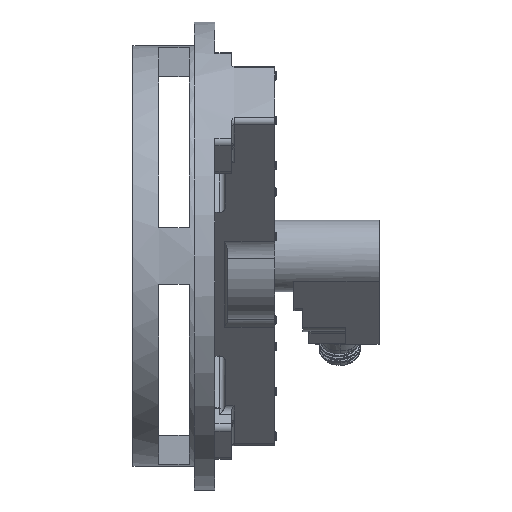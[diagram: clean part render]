
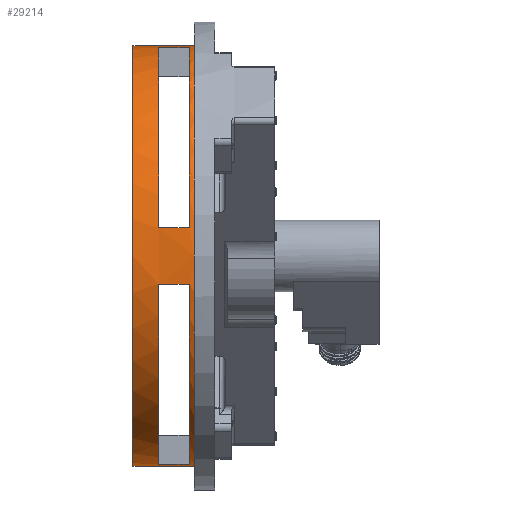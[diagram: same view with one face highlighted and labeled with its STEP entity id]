
A CAD part, left-side view. The second image highlights one B-rep face of the part: STEP entity #29214.
In plain terms, the highlighted cylindrical face has radius 114.173 mm (diameter 228.346 mm), a partial arc.
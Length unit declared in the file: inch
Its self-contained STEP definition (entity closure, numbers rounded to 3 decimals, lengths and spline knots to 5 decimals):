
#106 = CARTESIAN_POINT ( 'NONE',  ( -4.45478, 0.55, 0.6 ) ) ;
#828 = VERTEX_POINT ( 'NONE', #26707 ) ;
#869 = CARTESIAN_POINT ( 'NONE',  ( -4.45478, 1.2, 0.6 ) ) ;
#1244 = AXIS2_PLACEMENT_3D ( 'NONE', #27742, #18904, #27542 ) ;
#2260 = DIRECTION ( 'NONE',  ( 0., 1., 0. ) ) ;
#2295 = EDGE_CURVE ( 'NONE', #41793, #5886, #24773, .T. ) ;
#2335 = EDGE_CURVE ( 'NONE', #12716, #41793, #48828, .T. ) ;
#2461 = VERTEX_POINT ( 'NONE', #15449 ) ;
#2578 = EDGE_LOOP ( 'NONE', ( #12603, #45835, #14127, #45204 ) ) ;
#2658 = DIRECTION ( 'NONE',  ( 0., -1., 0. ) ) ;
#2911 = CIRCLE ( 'NONE', #37182, 4.495 ) ;
#2968 = VECTOR ( 'NONE', #2260, 39.37008 ) ;
#3605 = VECTOR ( 'NONE', #46795, 39.37008 ) ;
#3682 = DIRECTION ( 'NONE',  ( 0., 1., 0. ) ) ;
#5886 = VERTEX_POINT ( 'NONE', #106 ) ;
#6299 = EDGE_CURVE ( 'NONE', #828, #27022, #43797, .T. ) ;
#7137 = EDGE_CURVE ( 'NONE', #35178, #26812, #47825, .T. ) ;
#7289 = CARTESIAN_POINT ( 'NONE',  ( -0.6, 1.2, -4.45478 ) ) ;
#7793 = CARTESIAN_POINT ( 'NONE',  ( -4.45478, 0.4375, 0.6 ) ) ;
#9482 = VERTEX_POINT ( 'NONE', #35157 ) ;
#10057 = ORIENTED_EDGE ( 'NONE', *, *, #16496, .T. ) ;
#10648 = CARTESIAN_POINT ( 'NONE',  ( -0.6, 0.4375, -4.45478 ) ) ;
#10720 = AXIS2_PLACEMENT_3D ( 'NONE', #47709, #3682, #34426 ) ;
#11187 = CARTESIAN_POINT ( 'NONE',  ( 0., 0.4375, 0. ) ) ;
#12581 = LINE ( 'NONE', #7793, #3605 ) ;
#12603 = ORIENTED_EDGE ( 'NONE', *, *, #45439, .F. ) ;
#12716 = VERTEX_POINT ( 'NONE', #52568 ) ;
#13306 = EDGE_CURVE ( 'NONE', #5886, #43640, #12581, .T. ) ;
#14127 = ORIENTED_EDGE ( 'NONE', *, *, #26405, .T. ) ;
#14575 = CARTESIAN_POINT ( 'NONE',  ( 0., 0.4375, 0. ) ) ;
#14807 = LINE ( 'NONE', #48617, #33358 ) ;
#15009 = CARTESIAN_POINT ( 'NONE',  ( 0., 1.75, 0. ) ) ;
#15272 = CIRCLE ( 'NONE', #29771, 4.495 ) ;
#15421 = EDGE_CURVE ( 'NONE', #26812, #36880, #16488, .T. ) ;
#15449 = CARTESIAN_POINT ( 'NONE',  ( 0., 1.75, 4.495 ) ) ;
#15940 = ORIENTED_EDGE ( 'NONE', *, *, #47900, .T. ) ;
#16488 = LINE ( 'NONE', #24577, #47396 ) ;
#16496 = EDGE_CURVE ( 'NONE', #23132, #35178, #22579, .T. ) ;
#16874 = CARTESIAN_POINT ( 'NONE',  ( -0.6, 0.55, 4.45478 ) ) ;
#17464 = FACE_BOUND ( 'NONE', #51415, .T. ) ;
#18904 = DIRECTION ( 'NONE',  ( 0., -1., 0. ) ) ;
#19089 = CARTESIAN_POINT ( 'NONE',  ( -0.6, 0.4375, 4.45478 ) ) ;
#19368 = DIRECTION ( 'NONE',  ( 0., 0., 1. ) ) ;
#19440 = DIRECTION ( 'NONE',  ( 0., 1., 0. ) ) ;
#19478 = CARTESIAN_POINT ( 'NONE',  ( 0., 1.2, 0. ) ) ;
#19975 = ORIENTED_EDGE ( 'NONE', *, *, #52664, .T. ) ;
#20193 = DIRECTION ( 'NONE',  ( 0., 0., 1. ) ) ;
#22579 = LINE ( 'NONE', #10648, #25345 ) ;
#23132 = VERTEX_POINT ( 'NONE', #41169 ) ;
#23782 = ORIENTED_EDGE ( 'NONE', *, *, #7137, .T. ) ;
#24577 = CARTESIAN_POINT ( 'NONE',  ( -4.45478, 0.4375, -0.6 ) ) ;
#24773 = CIRCLE ( 'NONE', #1244, 4.495 ) ;
#24904 = CIRCLE ( 'NONE', #30020, 4.495 ) ;
#25345 = VECTOR ( 'NONE', #32698, 39.37008 ) ;
#25632 = EDGE_LOOP ( 'NONE', ( #15940, #10057, #23782, #43180 ) ) ;
#25728 = FACE_OUTER_BOUND ( 'NONE', #2578, .T. ) ;
#26405 = EDGE_CURVE ( 'NONE', #27022, #2461, #40126, .T. ) ;
#26707 = CARTESIAN_POINT ( 'NONE',  ( 0., 0.4375, -4.495 ) ) ;
#26812 = VERTEX_POINT ( 'NONE', #48932 ) ;
#27022 = VERTEX_POINT ( 'NONE', #29649 ) ;
#27542 = DIRECTION ( 'NONE',  ( 0., 0., 1. ) ) ;
#27742 = CARTESIAN_POINT ( 'NONE',  ( 0., 0.55, 0. ) ) ;
#27868 = DIRECTION ( 'NONE',  ( 0., 0., 1. ) ) ;
#29214 = ADVANCED_FACE ( 'NONE', ( #25728, #36046, #17464 ), #29847, .T. ) ;
#29649 = CARTESIAN_POINT ( 'NONE',  ( 0., 0.4375, 4.495 ) ) ;
#29771 = AXIS2_PLACEMENT_3D ( 'NONE', #56496, #56114, #47622 ) ;
#29847 = CYLINDRICAL_SURFACE ( 'NONE', #36856, 4.495 ) ;
#30020 = AXIS2_PLACEMENT_3D ( 'NONE', #19478, #45784, #40969 ) ;
#32698 = DIRECTION ( 'NONE',  ( 0., 1., 0. ) ) ;
#33358 = VECTOR ( 'NONE', #52512, 39.37008 ) ;
#34426 = DIRECTION ( 'NONE',  ( 0., 0., 1. ) ) ;
#35157 = CARTESIAN_POINT ( 'NONE',  ( 0., 1.75, -4.495 ) ) ;
#35178 = VERTEX_POINT ( 'NONE', #7289 ) ;
#36046 = FACE_BOUND ( 'NONE', #25632, .T. ) ;
#36856 = AXIS2_PLACEMENT_3D ( 'NONE', #11187, #19440, #20193 ) ;
#36880 = VERTEX_POINT ( 'NONE', #45144 ) ;
#36903 = DIRECTION ( 'NONE',  ( 0., 1., 0. ) ) ;
#37182 = AXIS2_PLACEMENT_3D ( 'NONE', #15009, #36903, #27868 ) ;
#37756 = ORIENTED_EDGE ( 'NONE', *, *, #13306, .T. ) ;
#40126 = LINE ( 'NONE', #41818, #2968 ) ;
#40969 = DIRECTION ( 'NONE',  ( 0., 0., 1. ) ) ;
#41169 = CARTESIAN_POINT ( 'NONE',  ( -0.6, 0.55, -4.45478 ) ) ;
#41185 = DIRECTION ( 'NONE',  ( 0., -1., 0. ) ) ;
#41496 = EDGE_CURVE ( 'NONE', #9482, #2461, #2911, .T. ) ;
#41793 = VERTEX_POINT ( 'NONE', #16874 ) ;
#41818 = CARTESIAN_POINT ( 'NONE',  ( 0., 0.4375, 4.495 ) ) ;
#42616 = VECTOR ( 'NONE', #41185, 39.37008 ) ;
#43180 = ORIENTED_EDGE ( 'NONE', *, *, #15421, .T. ) ;
#43640 = VERTEX_POINT ( 'NONE', #869 ) ;
#43797 = CIRCLE ( 'NONE', #47462, 4.495 ) ;
#45144 = CARTESIAN_POINT ( 'NONE',  ( -4.45478, 0.55, -0.6 ) ) ;
#45204 = ORIENTED_EDGE ( 'NONE', *, *, #41496, .F. ) ;
#45308 = DIRECTION ( 'NONE',  ( 0., 1., 0. ) ) ;
#45439 = EDGE_CURVE ( 'NONE', #828, #9482, #14807, .T. ) ;
#45784 = DIRECTION ( 'NONE',  ( 0., 1., 0. ) ) ;
#45835 = ORIENTED_EDGE ( 'NONE', *, *, #6299, .T. ) ;
#46795 = DIRECTION ( 'NONE',  ( 0., 1., 0. ) ) ;
#47190 = ORIENTED_EDGE ( 'NONE', *, *, #2335, .T. ) ;
#47396 = VECTOR ( 'NONE', #2658, 39.37008 ) ;
#47462 = AXIS2_PLACEMENT_3D ( 'NONE', #14575, #45308, #19368 ) ;
#47622 = DIRECTION ( 'NONE',  ( 0., 0., 1. ) ) ;
#47709 = CARTESIAN_POINT ( 'NONE',  ( 0., 1.2, 0. ) ) ;
#47825 = CIRCLE ( 'NONE', #10720, 4.495 ) ;
#47900 = EDGE_CURVE ( 'NONE', #36880, #23132, #15272, .T. ) ;
#48617 = CARTESIAN_POINT ( 'NONE',  ( 0., 0.4375, -4.495 ) ) ;
#48828 = LINE ( 'NONE', #19089, #42616 ) ;
#48932 = CARTESIAN_POINT ( 'NONE',  ( -4.45478, 1.2, -0.6 ) ) ;
#51415 = EDGE_LOOP ( 'NONE', ( #37756, #19975, #47190, #52606 ) ) ;
#52512 = DIRECTION ( 'NONE',  ( 0., 1., 0. ) ) ;
#52568 = CARTESIAN_POINT ( 'NONE',  ( -0.6, 1.2, 4.45478 ) ) ;
#52606 = ORIENTED_EDGE ( 'NONE', *, *, #2295, .T. ) ;
#52664 = EDGE_CURVE ( 'NONE', #43640, #12716, #24904, .T. ) ;
#56114 = DIRECTION ( 'NONE',  ( 0., -1., 0. ) ) ;
#56496 = CARTESIAN_POINT ( 'NONE',  ( 0., 0.55, 0. ) ) ;
